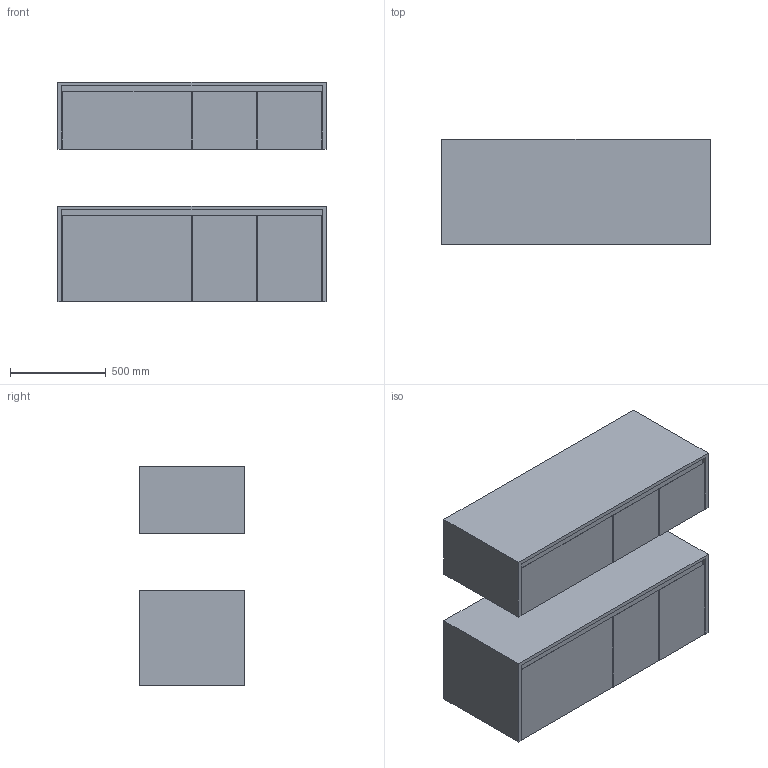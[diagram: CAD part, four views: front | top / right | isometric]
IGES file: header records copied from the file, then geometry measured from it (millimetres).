
Global section: file name: \\Archi-NAS\Comune\X GIOVANNI\MOBILI\SLIMLINE\SLIMLINE_05.igs; native system: Rhinoceros ( Feb 23 2021 ); preprocessor: Trout Lake IGES 012 Feb 23 2021; date: 230607.144214; units: millimetre
Bounding box: 1400 x 550 x 1147.79 mm (x, y, z)
Surface area: 15886389.4 mm2 (no closed solid volume)
Topology: 0 solids, 0 shells, 156 faces, 660 edges, 660 vertices
Faces by surface type: bspline 156
